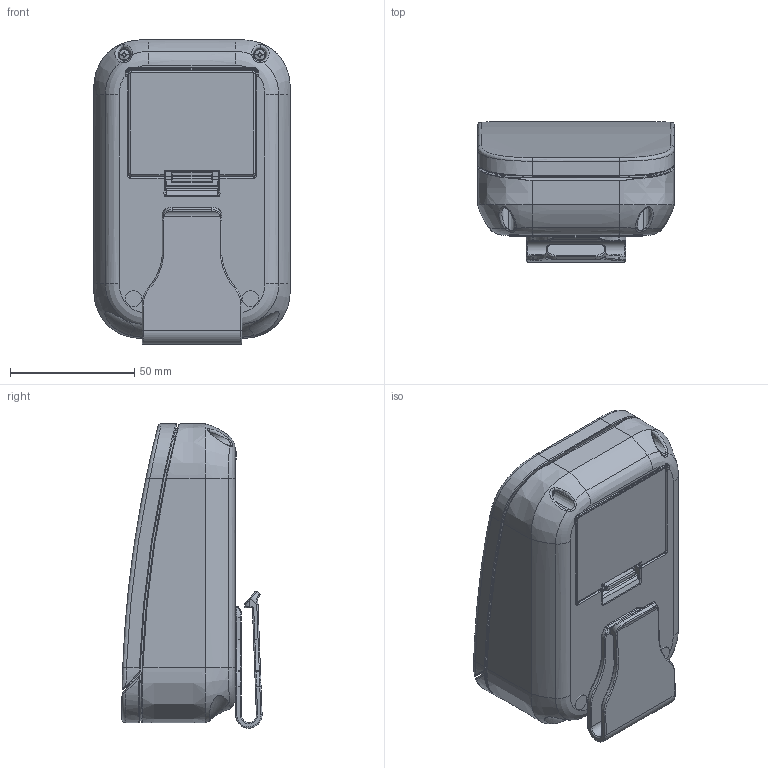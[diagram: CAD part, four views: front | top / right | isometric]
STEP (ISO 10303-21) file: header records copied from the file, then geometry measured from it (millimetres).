
FILE_DESCRIPTION((''),'2;1');
FILE_NAME('TM-P20II_CLOSE_250227','2025-02-26T12:44:17',('5005293'),(''),'CREO PARAMETRIC BY PTC INC, 2021184','CREO PARAMETRIC BY PTC INC, 2021184','');
FILE_SCHEMA(('AUTOMOTIVE_DESIGN { 1 0 10303 214 1 1 1 1 }'));
Products named in the file (1): TM-P20II_CLOSE_250227
Bounding box: 79 x 56.31 x 122.29 mm (x, y, z)
Surface area: 79236.7 mm2 (no closed solid volume)
Topology: 0 solids, 26 shells, 1496 faces, 4260 edges, 2760 vertices
Faces by surface type: cylinder 592, plane 480, bspline 217, torus 95, extrusion 74, sphere 20, cone 18
Entity records: 80159 total; most frequent: CARTESIAN_POINT 42880, ORIENTED_EDGE 7948, DIRECTION 7323, EDGE_CURVE 4258, VERTEX_POINT 2760, AXIS2_PLACEMENT_3D 2626, VECTOR 2071, LINE 1997
